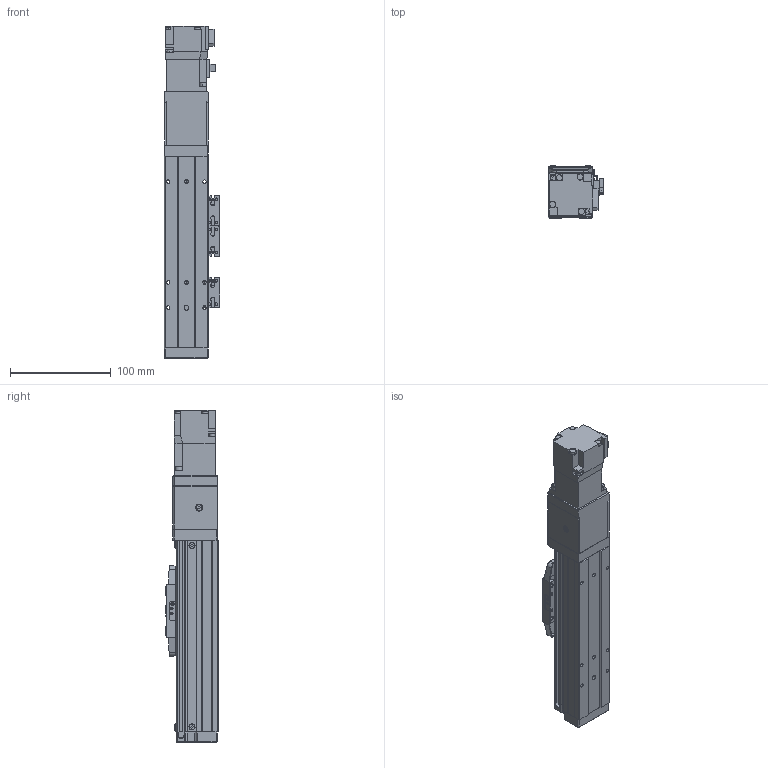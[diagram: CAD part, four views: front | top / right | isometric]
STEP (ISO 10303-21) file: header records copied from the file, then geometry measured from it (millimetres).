
FILE_DESCRIPTION (( 'STEP AP214' ), '1' );
FILE_NAME ('RGH4-XX-50-E-M05-C4.step', '2025-10-28T06:28:53', ( 'Microsoft' ), ( 'Microsoft' ), 'SwSTEP 2.0', 'SolidWorks 2018', '' );
FILE_SCHEMA (( 'AUTOMOTIVE_DESIGN' ));
Length unit declared in the file: millimetre
Products named in the file (1): RGH4-XX-50-E-M05-C4
Bounding box: 55.2 x 52 x 329.4 mm (x, y, z)
Volume: 549713.7 mm3; surface area: 136171.8 mm2
Topology: 51 solids, 51 shells, 1872 faces, 4376 edges, 2692 vertices
Faces by surface type: plane 1026, cylinder 449, cone 257, torus 132, sphere 8
Entity records: 74726 total; most frequent: CARTESIAN_POINT 9893, DIRECTION 9408, ORIENTED_EDGE 8680, EDGE_CURVE 4340, AXIS2_PLACEMENT_3D 3277, VECTOR 2854, LINE 2854, VERTEX_POINT 2688
